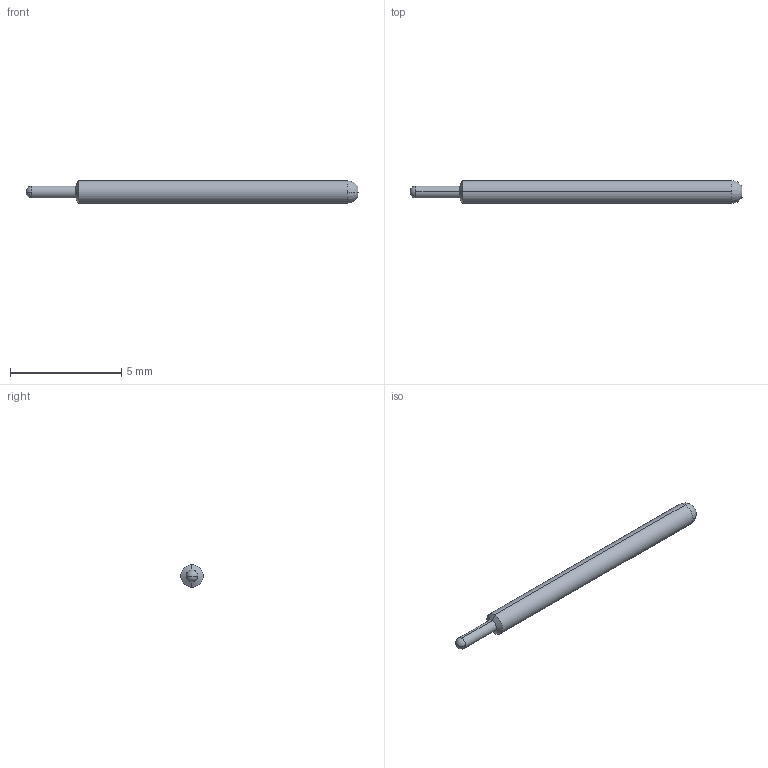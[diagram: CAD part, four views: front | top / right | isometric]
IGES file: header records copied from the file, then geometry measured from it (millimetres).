
Start section: SolidWorks IGES file using analytic representation for surfaces
Global section: file name: Z:\probe solid model mockups\Solidworks models\IGES Files\HPA-1\HPA-1J RECD.IGS; native system: SolidWorks 2006 by SolidWorks Corporation; preprocessor: SolidWorks 2006 by SolidWorks Corporation; author: tsakatani; date: 071220.112522; units: inch
Bounding box: 14.94 x 1.02 x 1.02 mm (x, y, z)
Surface area: 44.7 mm2 (no closed solid volume)
Topology: 0 solids, 0 shells, 11 faces, 64 edges, 62 vertices
Faces by surface type: revolution 10, bspline 1
